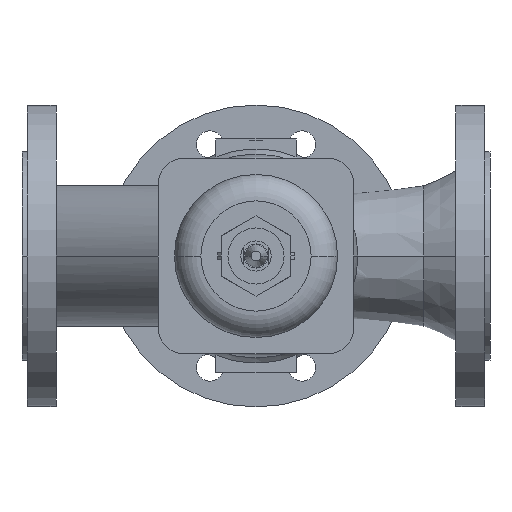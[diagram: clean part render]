
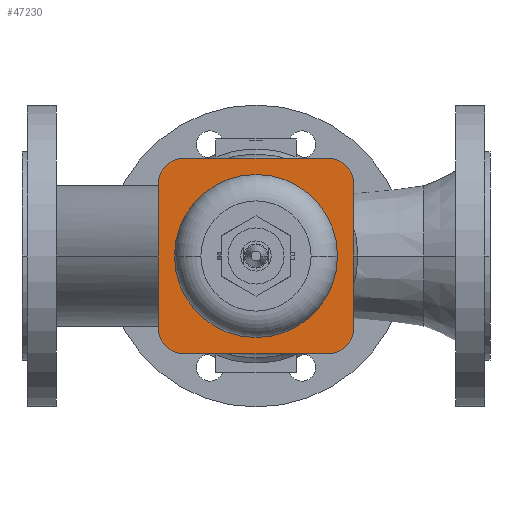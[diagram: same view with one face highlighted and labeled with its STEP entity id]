
A CAD part, front view. The second image highlights one B-rep face of the part: STEP entity #47230.
In plain terms, the highlighted planar face has unit normal (0, -1, 0).
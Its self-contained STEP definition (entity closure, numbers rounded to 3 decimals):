
#930=CARTESIAN_POINT('',(90.27,-168.62,47.73));
#940=VERTEX_POINT('',#930);
#970=CARTESIAN_POINT('',(90.27,-168.62,-23.865));
#980=DIRECTION('',(0.,0.,-1.));
#990=VECTOR('',#980,1.);
#1000=LINE('',#970,#990);
#1010=CARTESIAN_POINT('',(90.27,-168.62,-47.73));
#1020=VERTEX_POINT('',#1010);
#1030=EDGE_CURVE('',#940,#1020,#1000,.T.);
#19910=CARTESIAN_POINT('',(101.,-168.62,0.));
#19920=VERTEX_POINT('',#19910);
#19950=CARTESIAN_POINT('',(155.,-168.62,0.));
#19960=DIRECTION('',(0.,-1.,0.));
#19970=DIRECTION('',(-1.,0.,0.));
#19980=AXIS2_PLACEMENT_3D('',#19950,#19960,#19970);
#19990=CIRCLE('',#19980,54.);
#20000=CARTESIAN_POINT('',(209.,-168.62,0.));
#20010=VERTEX_POINT('',#20000);
#20020=EDGE_CURVE('',#20010,#19920,#19990,.T.);
#46520=CARTESIAN_POINT('',(85.75,-168.62,0.));
#46530=DIRECTION('',(0.,-1.,0.));
#46540=DIRECTION('',(-1.,0.,0.));
#46550=AXIS2_PLACEMENT_3D('',#46520,#46530,#46540);
#46560=PLANE('',#46550);
#46570=CARTESIAN_POINT('',(96.51,-168.62,64.73));
#46580=DIRECTION('',(-1.,0.,0.));
#46590=VECTOR('',#46580,1.);
#46600=LINE('',#46570,#46590);
#46610=CARTESIAN_POINT('',(202.73,-168.62,64.73));
#46620=VERTEX_POINT('',#46610);
#46630=CARTESIAN_POINT('',(107.27,-168.62,64.73));
#46640=VERTEX_POINT('',#46630);
#46650=EDGE_CURVE('',#46620,#46640,#46600,.T.);
#46660=ORIENTED_EDGE('',*,*,#46650,.T.);
#46670=CARTESIAN_POINT('',(202.73,-168.62,47.73));
#46680=DIRECTION('',(0.,-1.,0.));
#46690=DIRECTION('',(0.,0.,1.));
#46700=AXIS2_PLACEMENT_3D('',#46670,#46680,#46690);
#46710=CIRCLE('',#46700,17.);
#46720=CARTESIAN_POINT('',(219.73,-168.62,47.73));
#46730=VERTEX_POINT('',#46720);
#46740=EDGE_CURVE('',#46730,#46620,#46710,.T.);
#46750=ORIENTED_EDGE('',*,*,#46740,.T.);
#46760=CARTESIAN_POINT('',(219.73,-168.62,23.865));
#46770=DIRECTION('',(0.,0.,1.));
#46780=VECTOR('',#46770,1.);
#46790=LINE('',#46760,#46780);
#46800=CARTESIAN_POINT('',(219.73,-168.62,-47.73));
#46810=VERTEX_POINT('',#46800);
#46820=EDGE_CURVE('',#46810,#46730,#46790,.T.);
#46830=ORIENTED_EDGE('',*,*,#46820,.T.);
#46840=CARTESIAN_POINT('',(202.73,-168.62,-47.73));
#46850=DIRECTION('',(0.,-1.,0.));
#46860=DIRECTION('',(1.,0.,0.));
#46870=AXIS2_PLACEMENT_3D('',#46840,#46850,#46860);
#46880=CIRCLE('',#46870,17.);
#46890=CARTESIAN_POINT('',(202.73,-168.62,-64.73));
#46900=VERTEX_POINT('',#46890);
#46910=EDGE_CURVE('',#46900,#46810,#46880,.T.);
#46920=ORIENTED_EDGE('',*,*,#46910,.T.);
#46930=CARTESIAN_POINT('',(144.24,-168.62,-64.73));
#46940=DIRECTION('',(1.,0.,0.));
#46950=VECTOR('',#46940,1.);
#46960=LINE('',#46930,#46950);
#46970=CARTESIAN_POINT('',(107.27,-168.62,-64.73));
#46980=VERTEX_POINT('',#46970);
#46990=EDGE_CURVE('',#46980,#46900,#46960,.T.);
#47000=ORIENTED_EDGE('',*,*,#46990,.T.);
#47010=CARTESIAN_POINT('',(107.27,-168.62,-47.73));
#47020=DIRECTION('',(0.,-1.,0.));
#47030=DIRECTION('',(0.,0.,-1.));
#47040=AXIS2_PLACEMENT_3D('',#47010,#47020,#47030);
#47050=CIRCLE('',#47040,17.);
#47060=EDGE_CURVE('',#1020,#46980,#47050,.T.);
#47070=ORIENTED_EDGE('',*,*,#47060,.T.);
#47080=ORIENTED_EDGE('',*,*,#1030,.T.);
#47090=CARTESIAN_POINT('',(107.27,-168.62,47.73));
#47100=DIRECTION('',(0.,-1.,0.));
#47110=DIRECTION('',(-1.,0.,0.));
#47120=AXIS2_PLACEMENT_3D('',#47090,#47100,#47110);
#47130=CIRCLE('',#47120,17.);
#47140=EDGE_CURVE('',#46640,#940,#47130,.T.);
#47150=ORIENTED_EDGE('',*,*,#47140,.T.);
#47160=EDGE_LOOP('',(#47150,#47080,#47070,#47000,#46920,#46830,#46750,
#46660));
#47170=FACE_OUTER_BOUND('',#47160,.T.);
#47180=EDGE_CURVE('',#19920,#20010,#19990,.T.);
#47190=ORIENTED_EDGE('',*,*,#47180,.F.);
#47200=ORIENTED_EDGE('',*,*,#20020,.F.);
#47210=EDGE_LOOP('',(#47200,#47190));
#47220=FACE_BOUND('',#47210,.T.);
#47230=ADVANCED_FACE('',(#47170,#47220),#46560,.T.);
